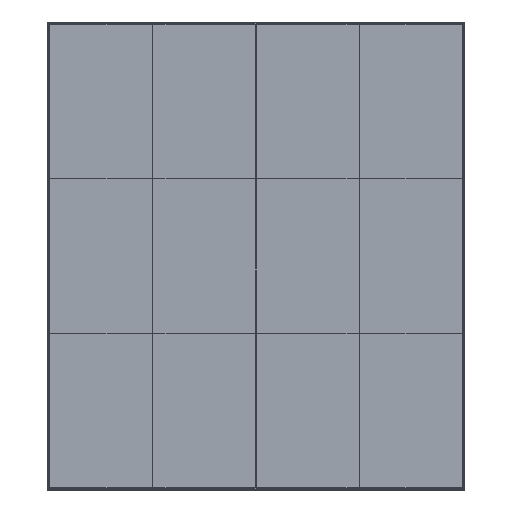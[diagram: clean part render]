
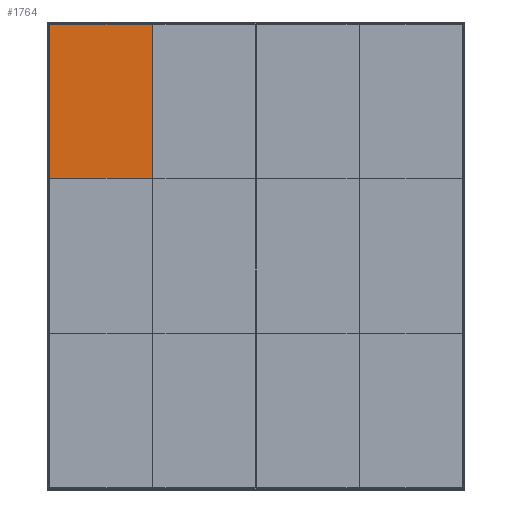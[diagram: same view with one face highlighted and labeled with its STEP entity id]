
A CAD part, top view. The second image highlights one B-rep face of the part: STEP entity #1764.
In plain terms, the highlighted planar face has unit normal (0, 0, 1).
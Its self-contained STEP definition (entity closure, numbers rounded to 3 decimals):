
#1764=ADVANCED_FACE('',(#2434),#9125,.T.);
#2434=FACE_OUTER_BOUND('',#3192,.T.);
#3192=EDGE_LOOP('',(#5671,#5672,#5673,#5674));
#5671=ORIENTED_EDGE('',*,*,#7137,.T.);
#5672=ORIENTED_EDGE('',*,*,#7141,.T.);
#5673=ORIENTED_EDGE('',*,*,#7144,.T.);
#5674=ORIENTED_EDGE('',*,*,#7146,.T.);
#7137=EDGE_CURVE('',#8885,#8884,#8008,.T.);
#7141=EDGE_CURVE('',#8884,#8887,#8012,.T.);
#7144=EDGE_CURVE('',#8887,#8889,#8015,.T.);
#7146=EDGE_CURVE('',#8889,#8885,#8017,.T.);
#8008=B_SPLINE_CURVE_WITH_KNOTS('',1,(#17344,#17345),.UNSPECIFIED.,.F.,
 .F.,(2,2),(0.,221.5),.UNSPECIFIED.);
#8012=B_SPLINE_CURVE_WITH_KNOTS('',1,(#17352,#17353),.UNSPECIFIED.,.F.,
 .F.,(2,2),(221.5,668.),.UNSPECIFIED.);
#8015=B_SPLINE_CURVE_WITH_KNOTS('',1,(#17358,#17359),.UNSPECIFIED.,.F.,
 .F.,(2,2),(668.,889.5),.UNSPECIFIED.);
#8017=B_SPLINE_CURVE_WITH_KNOTS('',1,(#17362,#17363),.UNSPECIFIED.,.F.,
 .F.,(2,2),(889.5,1336.),.UNSPECIFIED.);
#8884=VERTEX_POINT('',#17334);
#8885=VERTEX_POINT('',#17335);
#8887=VERTEX_POINT('',#17337);
#8889=VERTEX_POINT('',#17339);
#9125=PLANE('',#9659);
#9659=AXIS2_PLACEMENT_3D('',#17331,#10109,$);
#10109=DIRECTION('',(0.,0.,1.));
#17331=CARTESIAN_POINT('',(-781.958,4347.801,740.));
#17334=CARTESIAN_POINT('',(-581.958,4047.801,740.));
#17335=CARTESIAN_POINT('',(-781.958,4047.801,740.));
#17337=CARTESIAN_POINT('',(-581.958,4347.801,740.));
#17339=CARTESIAN_POINT('',(-781.958,4347.801,740.));
#17344=CARTESIAN_POINT('',(-781.958,4047.801,740.));
#17345=CARTESIAN_POINT('',(-581.958,4047.801,740.));
#17352=CARTESIAN_POINT('',(-581.958,4047.801,740.));
#17353=CARTESIAN_POINT('',(-581.958,4347.801,740.));
#17358=CARTESIAN_POINT('',(-581.958,4347.801,740.));
#17359=CARTESIAN_POINT('',(-781.958,4347.801,740.));
#17362=CARTESIAN_POINT('',(-781.958,4347.801,740.));
#17363=CARTESIAN_POINT('',(-781.958,4047.801,740.));
